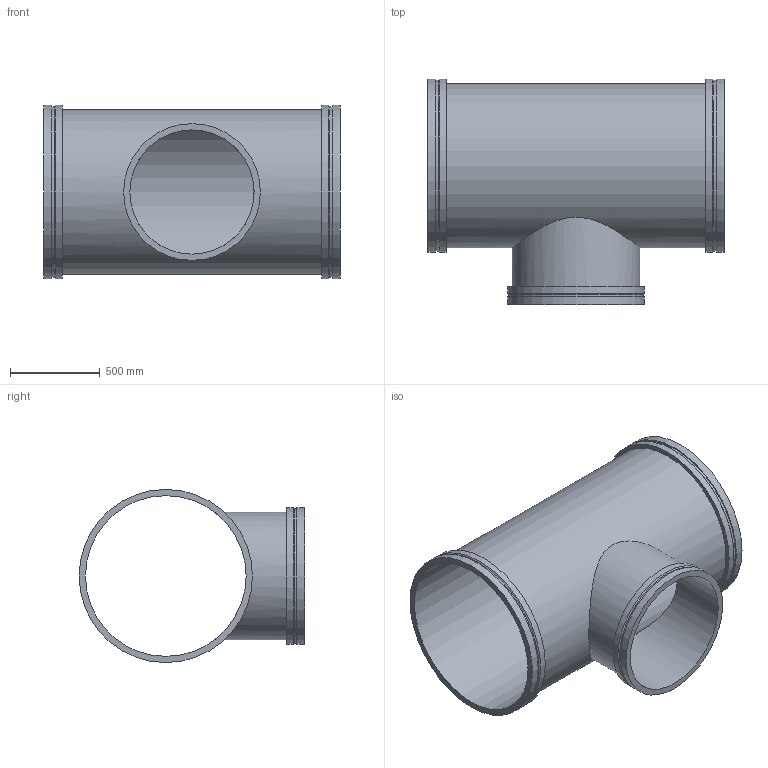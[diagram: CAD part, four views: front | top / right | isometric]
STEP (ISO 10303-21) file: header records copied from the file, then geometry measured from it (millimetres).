
FILE_DESCRIPTION(/* description */ ('VIC REDUCING TEE No W025 VR','CAx-IF Rec.Pracs.---Representation and Presentation of Product Manufacturing Information (PMI)---4.0---2014-10-13'),/* implementation_level */ '2;1');
FILE_NAME(/* name */ 'C:\Users\kkamble\AppData\Roaming\Autodesk\ApplicationPlugins\Back Up\Victaulic_Vic-Ring_Tee Reducing_No W25 VR (AGR)\Victaulic_Vic-Ring_Tee Reducing_No W25 VR (AGR)_36.0x28.0 (900x700).stp',/* time_stamp */ '2020-09-10T11:55:15+05:00',/* author */ ('mchristi'),/* organization */ ('Victaulic'),/* preprocessor_version */ 'ST-DEVELOPER v17.2',/* originating_system */ 'Autodesk Inventor 2019',/* authorisation */ '');
FILE_SCHEMA (('AP242_MANAGED_MODEL_BASED_3D_ENGINEERING_MIM_LF { 1 0 10303 442 1 1 4 }'));
Length unit declared in the file: inch
Products named in the file (1): W25 VR-36.0x28.0
Bounding box: 1651 x 1257.3 x 965.2 mm (x, y, z)
Volume: 69313301.7 mm3; surface area: 10930902 mm2
Topology: 1 solids, 1 shells, 25 faces, 68 edges, 52 vertices
Faces by surface type: cylinder 13, plane 9, cone 3
Full cylindrical faces by diameter (mm): 692.15 x1, 711.2 x1, 747.522 x1, 762 x2, 895.35 x1, 914.4 x1, 950.722 x2, 965.2 x4
Entity records: 1259 total; most frequent: CARTESIAN_POINT 415, DIRECTION 190, ORIENTED_EDGE 136, AXIS2_PLACEMENT_3D 87, EDGE_CURVE 68, VERTEX_POINT 52, CIRCLE 48, EDGE_LOOP 36
